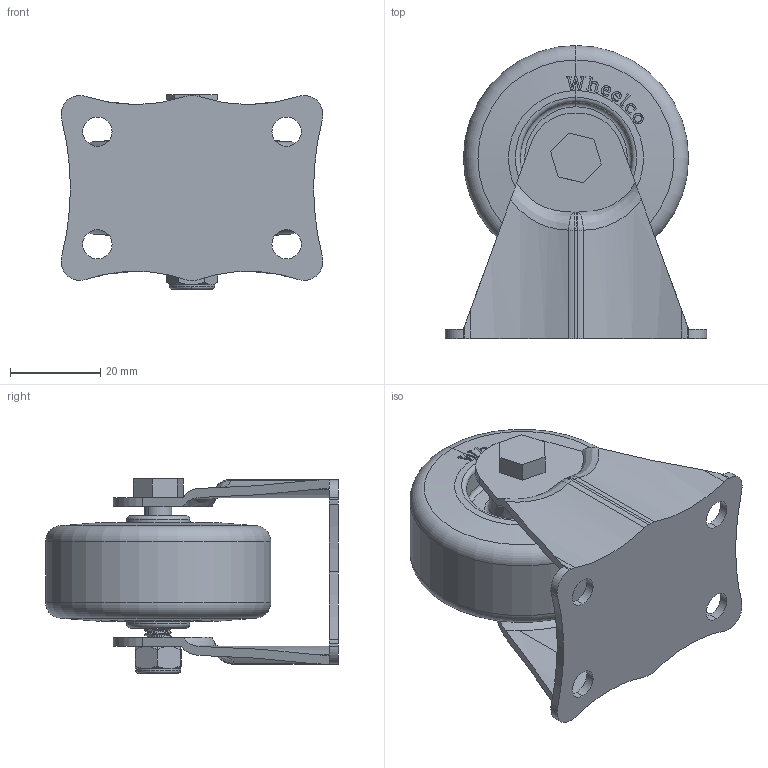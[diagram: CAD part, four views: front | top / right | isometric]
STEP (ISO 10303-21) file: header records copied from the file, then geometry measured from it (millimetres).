
FILE_DESCRIPTION (( 'STEP AP214' ), '1' );
FILE_NAME ('WLU50-F.step', '2024-01-15T01:50:21', ( '' ), ( '' ), 'SwSTEP 2.0', 'SolidWorks 2022', '' );
FILE_SCHEMA (( 'AUTOMOTIVE_DESIGN' ));
Length unit declared in the file: millimetre
Products named in the file (5): M6X35; M6NYLOC-WHITE; WL50-F; WLU50-F; WLU50
Assembly tree (4 placements, depth 2):
  WLU50-F
    WL50-F
    M6X35
    M6NYLOC-WHITE
    WLU50
Bounding box: 58 x 65.02 x 43.2 mm (x, y, z)
Volume: 48272.5 mm3; surface area: 21351.3 mm2
Topology: 4 solids, 4 shells, 482 faces, 1272 edges, 812 vertices
Faces by surface type: plane 191, bspline 124, cylinder 103, cone 32, torus 30, sphere 2
Entity records: 24310 total; most frequent: CARTESIAN_POINT 13093, ORIENTED_EDGE 2528, DIRECTION 1734, EDGE_CURVE 1264, VERTEX_POINT 812, AXIS2_PLACEMENT_3D 586, VECTOR 562, LINE 562
